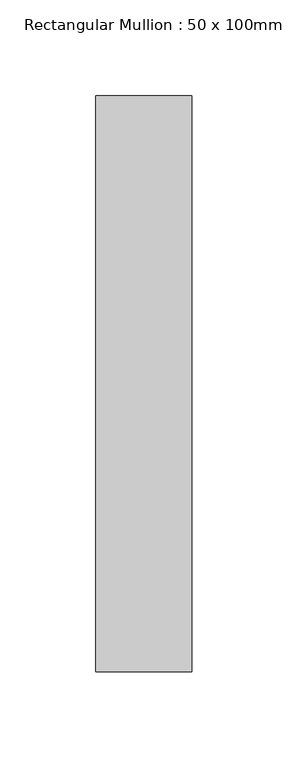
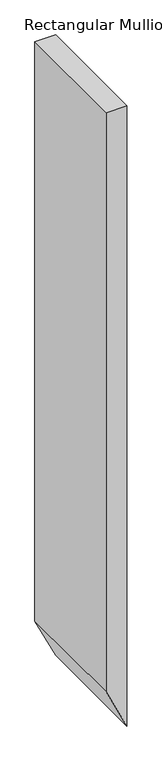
"""IFC4 building model written with IfcOpenShell, lengths in millimetres: member geometry, Rectangular Mullion : 50 x 100mm."""

import ifcopenshell
import ifcopenshell.guid

model = None  # the IFC model being written
_history = None  # IfcOwnerHistory: only IFC2X3 demands one
_inside = {}  # id of a spatial element -> (the spatial element, [elements in it])
_under = {}  # id of a project, library or spatial element -> (it, [spatial elements below it])
_declared = {}  # id of a project -> (the project, [libraries it declares])
_typed = {}  # id of a type object -> (the type object, [elements of that type])
_made_of = {}  # id of a material, layer set ... -> (it, [elements and type objects made of it])


def new_model(schema):
    """Start an empty IFC model of exactly this schema.

    Asked for "IFC4X3", IfcOpenShell would pick the latest addendum, in which some entities
    have other attributes; the version numbers below select the first issue.
    IFC2X3 requires an IfcOwnerHistory on every rooted entity: one is made here for all.
    """
    global model, _history
    if schema == "IFC4X3":
        model = ifcopenshell.file(schema_version=(4, 3, 0, 0))
    else:
        model = ifcopenshell.file(schema=schema)
    _inside.clear()
    _under.clear()
    _declared.clear()
    _typed.clear()
    _made_of.clear()
    _history = None
    if model.schema == "IFC2X3":
        org = make("IfcOrganization", Name="unknown")
        user = make(
            "IfcPersonAndOrganization",
            ThePerson=make("IfcPerson", FamilyName="unknown"),
            TheOrganization=org,
        )
        app = make(
            "IfcApplication",
            ApplicationDeveloper=org,
            Version="unknown",
            ApplicationFullName="unknown",
            ApplicationIdentifier="unknown",
        )
        _history = make(
            "IfcOwnerHistory",
            OwningUser=user,
            OwningApplication=app,
            ChangeAction="ADDED",
            CreationDate=0,
        )
    return model


def make(cls, **values):
    """One entity of the class cls with the attributes given. An attribute that is None is left unset."""
    return model.create_entity(
        cls, **{name: value for name, value in values.items() if value is not None}
    )


def rooted(cls, **values):
    """An entity with a GlobalId (a new one), such as an element, a storey or a relation."""
    return make(cls, GlobalId=ifcopenshell.guid.new(), OwnerHistory=_history, **values)


def si_unit(unit_type, name, prefix=None):
    """IfcSIUnit, for example si_unit("LENGTHUNIT", "METRE", prefix="MILLI")."""
    return make("IfcSIUnit", UnitType=unit_type, Prefix=prefix, Name=name)


def assignment(units):
    """IfcUnitAssignment: the units of a project."""
    return None if units is None else make("IfcUnitAssignment", Units=units)


def point(xyz):
    """IfcCartesianPoint."""
    return None if xyz is None else make("IfcCartesianPoint", Coordinates=xyz)


def direction(xyz):
    """IfcDirection."""
    return None if xyz is None else make("IfcDirection", DirectionRatios=xyz)


def frame(location, z_axis=None, x_axis=None):
    """IfcAxis2Placement3D, a coordinate frame: its origin and axes. An axis left out is left unset."""
    return make(
        "IfcAxis2Placement3D",
        Location=point(location),
        Axis=direction(z_axis),
        RefDirection=direction(x_axis),
    )


def origin():
    """The frame at (0, 0, 0) with its axes left unset."""
    return frame((0.0, 0.0, 0.0))


def place(relative_to, where):
    """IfcLocalPlacement: puts the frame where relative to a parent placement (None: the world)."""
    return make(
        "IfcLocalPlacement", PlacementRelTo=relative_to, RelativePlacement=where
    )


def context(
    kind, dimensions, precision=None, world=None, true_north=None, identifier=None
):
    """IfcGeometricRepresentationContext, for example the 3D "Model" context."""
    return make(
        "IfcGeometricRepresentationContext",
        ContextIdentifier=identifier,
        ContextType=kind,
        CoordinateSpaceDimension=dimensions,
        Precision=precision,
        WorldCoordinateSystem=world,
        TrueNorth=true_north,
    )


def project(units=None, contexts=None):
    """IfcProject with its units and contexts."""
    return rooted(
        "IfcProject",
        Name="project",
        RepresentationContexts=contexts,
        UnitsInContext=assignment(units),
    )


def spatial(cls, under=None, at=None, **own):
    """A site, building, storey or space (cls), placed at a placement, below another one or the project."""
    s = rooted(cls, ObjectPlacement=at, **own)
    if under is not None:
        _under.setdefault(under.id(), (under, []))[1].append(s)
    return s


def polyline(points):
    """IfcPolyline through the points."""
    return make("IfcPolyline", Points=[point(p) for p in points])


def outline(outer, holes=None, kind="AREA"):
    """IfcArbitraryClosedProfileDef: a profile drawn as a closed curve; with holes, ...WithVoids."""
    if holes is None:
        return make("IfcArbitraryClosedProfileDef", ProfileType=kind, OuterCurve=outer)
    return make(
        "IfcArbitraryProfileDefWithVoids",
        ProfileType=kind,
        OuterCurve=outer,
        InnerCurves=holes,
    )


def extrude(swept, where, along, depth):
    """IfcExtrudedAreaSolid: the profile swept, set in the frame where, extruded along a direction by depth."""
    return make(
        "IfcExtrudedAreaSolid",
        SweptArea=swept,
        Position=where,
        ExtrudedDirection=direction(along),
        Depth=depth,
    )


def shape(context_of_items, identifier, shape_type, items):
    """IfcShapeRepresentation: the items that make up one representation, for example the "Body"."""
    return make(
        "IfcShapeRepresentation",
        ContextOfItems=context_of_items,
        RepresentationIdentifier=identifier,
        RepresentationType=shape_type,
        Items=items,
    )


def source(mapping_origin, context_of_items, identifier, shape_type, items):
    """IfcRepresentationMap: a shape defined once, which mapped items show again and again."""
    return make(
        "IfcRepresentationMap",
        MappingOrigin=mapping_origin,
        MappedRepresentation=shape(context_of_items, identifier, shape_type, items),
    )


def transform(
    local_origin,
    x_axis=None,
    y_axis=None,
    z_axis=None,
    scale=None,
    scale2=None,
    scale3=None,
    uniform=True,
):
    """IfcCartesianTransformationOperator3D, or its non-uniform kind. x_axis, y_axis, z_axis: its Axis1, 2, 3."""
    if uniform:
        return make(
            "IfcCartesianTransformationOperator3D",
            Axis1=direction(x_axis),
            Axis2=direction(y_axis),
            LocalOrigin=point(local_origin),
            Scale=scale,
            Axis3=direction(z_axis),
        )
    return make(
        "IfcCartesianTransformationOperator3DnonUniform",
        Axis1=direction(x_axis),
        Axis2=direction(y_axis),
        LocalOrigin=point(local_origin),
        Scale=scale,
        Axis3=direction(z_axis),
        Scale2=scale2,
        Scale3=scale3,
    )


def mapped(mapping_source, mapping_target):
    """IfcMappedItem: shows the shape of a source again, moved by a transform."""
    return make(
        "IfcMappedItem", MappingSource=mapping_source, MappingTarget=mapping_target
    )


def made_of(thing, what):
    """Note that an element or type object is made of a material, layer set ...; save() writes the relation."""
    if what is not None:
        _made_of.setdefault(what.id(), (what, []))[1].append(thing)
    return thing


def element(
    cls,
    number,
    at=None,
    inside=None,
    cuts=None,
    type_object=None,
    material=None,
    context=None,
    identifier="Body",
    shape_type=None,
    held_by="IfcProductDefinitionShape",
    body=None,
    shapes=None,
    **own,
):
    """One element of the class cls, such as IfcWall. Its Tag is "e" and its number.

    at: its placement. inside: the storey or other place that contains it. cuts: it is an
    opening in that element (IfcRelVoidsElement). A single representation is given by context,
    identifier, shape_type and body (its items); several are given by shapes. held_by: the class
    of the entity that holds the representations. save() writes the other relations.
    """
    e = rooted(cls, Tag="e%d" % number, ObjectPlacement=at, **own)
    if body is not None:
        shapes = [shape(context, identifier, shape_type, body)]
    if shapes is not None:
        e.Representation = make(held_by, Representations=shapes)
    if inside is not None:
        _inside.setdefault(inside.id(), (inside, []))[1].append(e)
    if cuts is not None:
        rooted(
            "IfcRelVoidsElement", RelatingBuildingElement=cuts, RelatedOpeningElement=e
        )
    if type_object is not None:
        _typed.setdefault(type_object.id(), (type_object, []))[1].append(e)
    return made_of(e, material)


def aggregate(whole, parts):
    """IfcRelAggregates: a whole, such as a stair, and the parts it consists of."""
    return rooted("IfcRelAggregates", RelatingObject=whole, RelatedObjects=parts)


def save(model, path):
    """Write the relations noted so far, then the file.

    IfcRelAggregates (storeys below a building ...), IfcRelContainedInSpatialStructure (elements
    in a storey), IfcRelDefinesByType, IfcRelAssociatesMaterial and IfcRelDeclares: one each for
    every whole, place, type object, material and project.
    """
    for whole, parts in _under.values():
        aggregate(whole, parts)
    for where, things in _inside.values():
        rooted(
            "IfcRelContainedInSpatialStructure",
            RelatedElements=things,
            RelatingStructure=where,
        )
    for kind, things in _typed.values():
        rooted("IfcRelDefinesByType", RelatedObjects=things, RelatingType=kind)
    for what, things in _made_of.values():
        rooted("IfcRelAssociatesMaterial", RelatedObjects=things, RelatingMaterial=what)
    for by, libraries in _declared.values():
        rooted("IfcRelDeclares", RelatingContext=by, RelatedDefinitions=libraries)
    model.write(path)


def rectangular_mullion_50_x_100mm_a2001a8d(model_context):
    return source(origin(), model_context, "Body", "SweptSolid", [
        extrude(outline(polyline([(0.0, 0.0), (0.0, -50.0), (-1486.7373002, -50.0), (-1592.3286798, 0.0), (0.0, 0.0)])), frame((0.0, -125.0, 0.0), z_axis=(0.0, 1.0, 0.0), x_axis=(0.0, 0.0, 1.0)), (0.0, 0.0, 1.0), 300.0),
    ])


if __name__ == "__main__":
    model = new_model("IFC4")
    model_context = context("Model", 3, world=origin())
    ifc_project = project(units=[si_unit("LENGTHUNIT", "METRE", prefix="MILLI")], contexts=[model_context])
    site = spatial("IfcSite", under=ifc_project)
    building = spatial("IfcBuilding", under=site)
    placement = place(None, origin())
    rectangular_mullion_50_x_100mm_shape = rectangular_mullion_50_x_100mm_a2001a8d(model_context)
    element("IfcMember", 1, ObjectType="Rectangular Mullion : 50 x 100mm", at=placement, inside=building, context=model_context, shape_type="MappedRepresentation", body=[
        mapped(rectangular_mullion_50_x_100mm_shape, transform((0.0, 0.0, 0.0), x_axis=(1.0, 0.0, 0.0), y_axis=(0.0, 1.0, 0.0), z_axis=(0.0, 0.0, 1.0))),
    ])
    save(model, "model.ifc")
